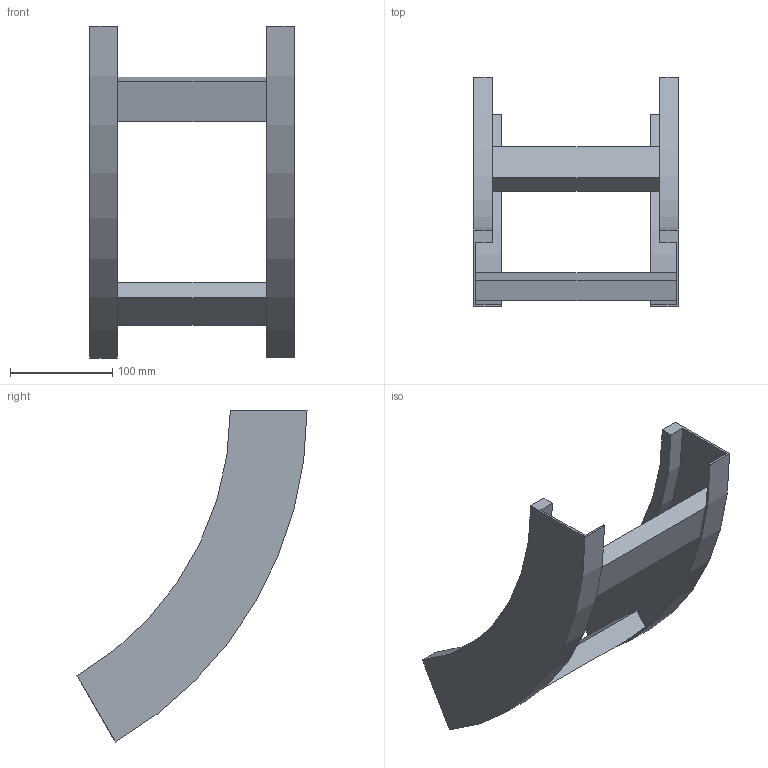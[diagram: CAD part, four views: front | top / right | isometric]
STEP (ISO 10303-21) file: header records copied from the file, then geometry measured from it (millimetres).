
FILE_DESCRIPTION (( 'STEP AP214' ), '1' );
FILE_NAME ('B2X40B3C200XX.step', '2025-03-20T10:17:45', ( '' ), ( '' ), 'SwSTEP 2.0', 'SolidWorks 2023', '' );
FILE_SCHEMA (( 'AUTOMOTIVE_DESIGN' ));
Length unit declared in the file: millimetre
Products named in the file (3): B2_LONGH.SALITA_60°_H75_R300; B2X40B3C200XX; TRAVERSINO_200
Assembly tree (4 placements, depth 2):
  B2X40B3C200XX
    B2_LONGH.SALITA_60°_H75_R300  x2
    TRAVERSINO_200  x2
Bounding box: 200 x 225 x 324.76 mm (x, y, z)
Volume: 585763.8 mm3; surface area: 220769.7 mm2
Topology: 4 solids, 4 shells, 32 faces, 72 edges, 48 vertices
Faces by surface type: plane 24, cylinder 8
Entity records: 552 total; most frequent: DIRECTION 90, CARTESIAN_POINT 83, ORIENTED_EDGE 72, EDGE_CURVE 36, AXIS2_PLACEMENT_3D 31, VECTOR 28, LINE 28, VERTEX_POINT 24
